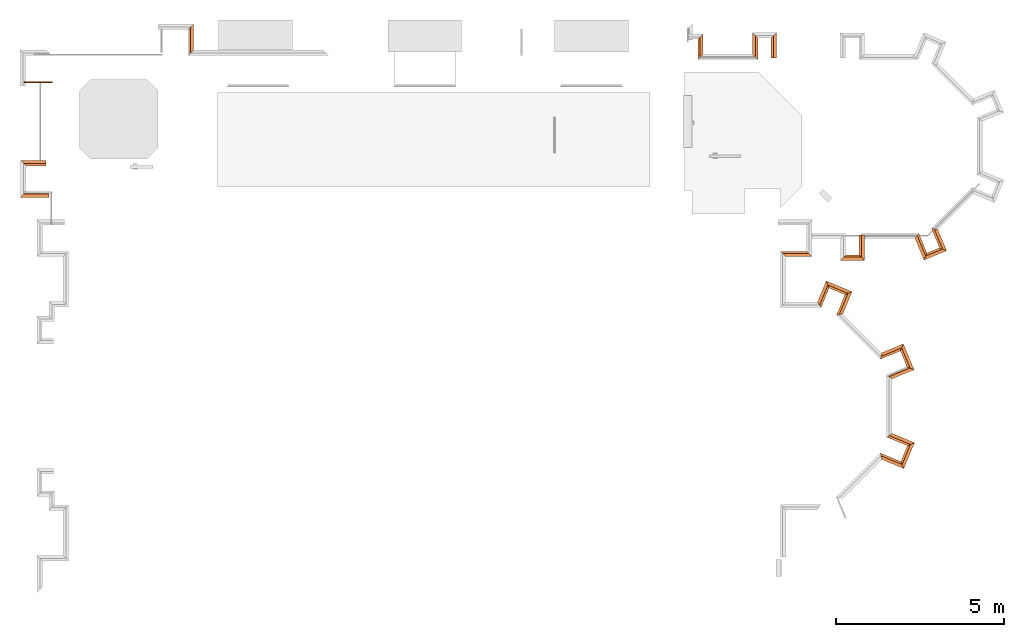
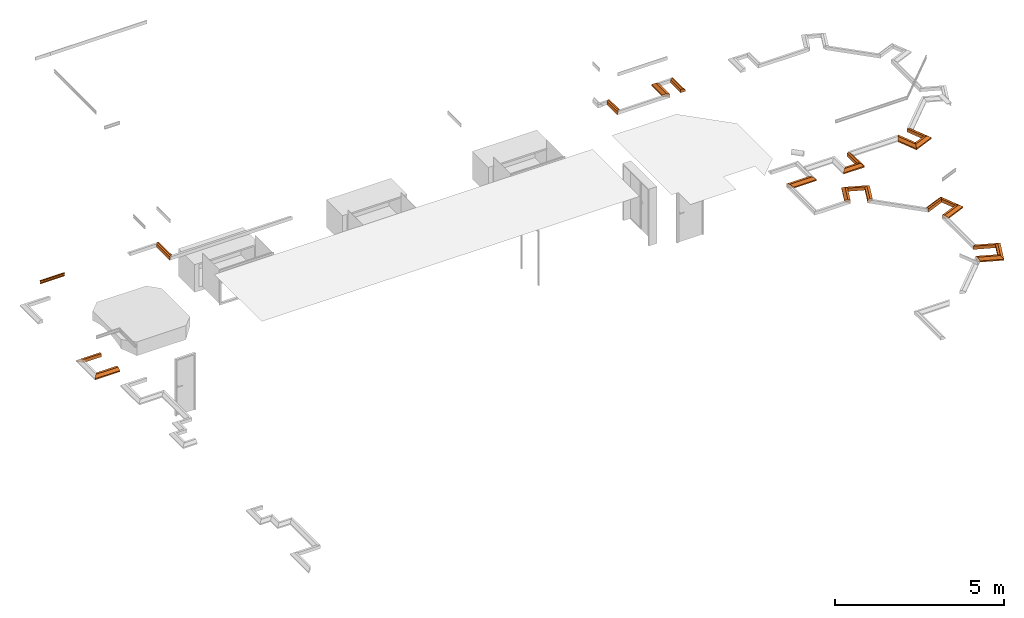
# One storey, part 8 of 9: 22 proxies.
"""IFC2X3 building model written with IfcOpenShell, lengths in metres."""

from ifc_helpers import new_model, entity, si_unit, converted_unit, derived_unit, direction, frame, origin, place, context, subcontext, project, spatial, faceted_brep, type_object, element, save


model = new_model("IFC2X3")

# Units and contexts
model_context = context("Model", 3, precision=1e-05, world=origin(), true_north=direction((6.12303176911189e-17, 1.0)))
plan_context = context("Plan", 3, precision=1e-05, world=origin(), true_north=direction((6.12303176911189e-17, 1.0)))
body_context = subcontext(model_context, "Body", "Model", "MODEL_VIEW")
ifc_project = project(units=[si_unit("LENGTHUNIT", "METRE"), si_unit("AREAUNIT", "SQUARE_METRE"), si_unit("VOLUMEUNIT", "CUBIC_METRE"), converted_unit("PLANEANGLEUNIT", "DEGREE", entity("IfcRatioMeasure", 0.0174532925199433), si_unit("PLANEANGLEUNIT", "RADIAN"), dimensions=[0, 0, 0, 0, 0, 0, 0]), si_unit("MASSUNIT", "GRAM", prefix="KILO"), derived_unit("MASSDENSITYUNIT", [(si_unit("MASSUNIT", "GRAM", prefix="KILO"), 1), (si_unit("LENGTHUNIT", "METRE"), -3)]), derived_unit("MOMENTOFINERTIAUNIT", [(si_unit("LENGTHUNIT", "METRE"), 4)]), si_unit("TIMEUNIT", "SECOND"), si_unit("FREQUENCYUNIT", "HERTZ"), si_unit("THERMODYNAMICTEMPERATUREUNIT", "DEGREE_CELSIUS"), derived_unit("THERMALTRANSMITTANCEUNIT", [(si_unit("MASSUNIT", "GRAM", prefix="KILO"), 1), (si_unit("THERMODYNAMICTEMPERATUREUNIT", "KELVIN"), -1), (si_unit("TIMEUNIT", "SECOND"), -3)]), derived_unit("VOLUMETRICFLOWRATEUNIT", [(si_unit("LENGTHUNIT", "METRE"), 3), (si_unit("TIMEUNIT", "SECOND"), -1)]), derived_unit("MASSFLOWRATEUNIT", [(si_unit("MASSUNIT", "GRAM", prefix="KILO"), 1), (si_unit("TIMEUNIT", "SECOND"), -1)]), derived_unit("ROTATIONALFREQUENCYUNIT", [(si_unit("TIMEUNIT", "SECOND"), -1)]), si_unit("ELECTRICCURRENTUNIT", "AMPERE"), si_unit("ELECTRICVOLTAGEUNIT", "VOLT"), si_unit("POWERUNIT", "WATT"), si_unit("FORCEUNIT", "NEWTON", prefix="KILO"), si_unit("ILLUMINANCEUNIT", "LUX"), si_unit("LUMINOUSFLUXUNIT", "LUMEN"), si_unit("LUMINOUSINTENSITYUNIT", "CANDELA"), derived_unit("USERDEFINED", [(si_unit("MASSUNIT", "GRAM", prefix="KILO"), -1), (si_unit("LENGTHUNIT", "METRE"), -2), (si_unit("TIMEUNIT", "SECOND"), 3), (si_unit("LUMINOUSFLUXUNIT", "LUMEN"), 1)]), derived_unit("SOUNDPOWERUNIT", [(si_unit("MASSUNIT", "GRAM", prefix="KILO"), 1), (si_unit("LENGTHUNIT", "METRE"), 2), (si_unit("TIMEUNIT", "SECOND"), -3)]), derived_unit("SOUNDPRESSUREUNIT", [(si_unit("MASSUNIT", "GRAM", prefix="KILO"), 1), (si_unit("LENGTHUNIT", "METRE"), -1), (si_unit("TIMEUNIT", "SECOND"), -2)]), derived_unit("LINEARVELOCITYUNIT", [(si_unit("LENGTHUNIT", "METRE"), 1), (si_unit("TIMEUNIT", "SECOND"), -1)]), si_unit("PRESSUREUNIT", "PASCAL"), derived_unit("USERDEFINED", [(si_unit("LENGTHUNIT", "METRE"), -2), (si_unit("MASSUNIT", "GRAM", prefix="KILO"), 1), (si_unit("TIMEUNIT", "SECOND"), -2)]), derived_unit("LINEARFORCEUNIT", [(si_unit("MASSUNIT", "GRAM", prefix="KILO"), 1), (si_unit("LENGTHUNIT", "METRE"), 1), (si_unit("TIMEUNIT", "SECOND"), -2), (si_unit("LENGTHUNIT", "METRE"), -1)]), derived_unit("PLANARFORCEUNIT", [(si_unit("MASSUNIT", "GRAM", prefix="KILO"), 1), (si_unit("LENGTHUNIT", "METRE"), 1), (si_unit("TIMEUNIT", "SECOND"), -2), (si_unit("LENGTHUNIT", "METRE"), -2)])], contexts=[model_context, plan_context])

# Site, building, storey
site_placement = place(None, frame((-11.0823275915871, 23.8300534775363, 0.0)))
site = spatial("IfcSite", under=ifc_project, at=site_placement, Name="Default", CompositionType="ELEMENT")
building_placement = place(site_placement, origin())
building = spatial("IfcBuilding", under=site, at=building_placement, Name="Englische Kirche", CompositionType="ELEMENT")
storey_placement = place(building_placement, frame((0.0, 0.0, -3.07499999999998)))
storey = spatial("IfcBuildingStorey", under=building, at=storey_placement, Name="Ebene -1 Basement Phase 6", CompositionType="ELEMENT", Elevation=-3.07499999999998)

# Proxies
building_element_proxy_type_1 = type_object("IfcBuildingElementProxyType", Name="Profilierte Wand:plinth brick header", PredefinedType="NOTDEFINED")
proxy_1_placement = place(storey_placement, frame((23.0870326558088, 9.20240777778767, 2.97999999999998)))
element("IfcBuildingElementProxy", 1, at=proxy_1_placement, inside=storey, type_object=building_element_proxy_type_1, Name="Profilierte Wand:plinth brick header", ObjectType="Profilierte Wand:plinth brick header", context=body_context, shape_type="Brep", body=[
    faceted_brep([(0.0, 0.162669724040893, 0.12), (0.0, 0.162669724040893, 0.0), (0.162669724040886, 0.0, 0.0), (0.16266972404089, 0.0, 0.0450000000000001), (0.0697725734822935, 0.0928971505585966, 0.12), (0.0, 0.750669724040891, 0.12), (0.0697725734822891, 0.750669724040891, 0.12), (0.162669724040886, 0.750669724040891, 0.0450000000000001), (0.162669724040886, 0.750669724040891, 0.0), (0.0, 0.750669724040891, 0.0)], [[[0, 1, 2, 3, 4]], [[5, 6, 7, 8, 9]], [[1, 0, 5, 9]], [[2, 1, 9, 8]], [[3, 2, 8, 7]], [[4, 3, 7, 6]], [[0, 4, 6, 5]]]),
])
building_element_proxy_type_2 = type_object("IfcBuildingElementProxyType", Name="Profilierte Wand:plinth brick header", PredefinedType="NOTDEFINED")
proxy_2_placement = place(storey_placement, frame((25.0225022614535, 9.20987226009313, 2.97999999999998)))
element("IfcBuildingElementProxy", 2, at=proxy_2_placement, inside=storey, type_object=building_element_proxy_type_2, Name="Profilierte Wand:plinth brick header", ObjectType="Profilierte Wand:plinth brick header", context=body_context, shape_type="Brep", body=[
    faceted_brep([(0.0880362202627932, 0.212538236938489, 0.12), (0.0880362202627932, 0.212538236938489, 0.0), (0.0, 0.0, 0.0), (0.0, 0.0, 0.0450000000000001), (0.0502755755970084, 0.121375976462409, 0.12), (0.458511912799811, 0.365994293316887, 0.12), (0.549674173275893, 0.328233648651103, 0.12), (0.671050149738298, 0.277958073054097, 0.0450000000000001), (0.671050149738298, 0.277958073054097, 0.0), (0.458511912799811, 0.365994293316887, 0.0)], [[[0, 1, 2, 3, 4]], [[5, 6, 7, 8, 9]], [[1, 0, 5, 9]], [[2, 1, 9, 8]], [[3, 2, 8, 7]], [[4, 3, 7, 6]], [[0, 4, 6, 5]]]),
])
building_element_proxy_type_3 = type_object("IfcBuildingElementProxyType", Name="Profilierte Wand:plinth brick header", PredefinedType="NOTDEFINED")
proxy_3_placement = place(storey_placement, frame((18.2734573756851, 15.1907189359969, 2.97999999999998)))
element("IfcBuildingElementProxy", 3, at=proxy_3_placement, inside=storey, type_object=building_element_proxy_type_3, Name="Profilierte Wand:plinth brick header", ObjectType="Profilierte Wand:plinth brick header", context=body_context, shape_type="Brep", body=[
    faceted_brep([(0.0, 0.606500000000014, 0.12), (0.0697725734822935, 0.676272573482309, 0.12), (0.16266972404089, 0.769169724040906, 0.0450000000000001), (0.16266972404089, 0.769169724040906, 0.0), (0.0, 0.606500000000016, 0.0), (0.0, 0.0, 0.12), (0.0, 0.0, 0.0), (0.16266972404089, 0.162669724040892, 0.0), (0.16266972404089, 0.162669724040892, 0.0450000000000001), (0.0697725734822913, 0.0697725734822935, 0.12)], [[[0, 1, 2, 3, 4]], [[5, 6, 7, 8, 9]], [[0, 4, 6, 5]], [[4, 3, 7, 6]], [[3, 2, 8, 7]], [[2, 1, 9, 8]], [[1, 0, 5, 9]]]),
])
building_element_proxy_type_4 = type_object("IfcBuildingElementProxyType", Name="Profilierte Wand:plinth", PredefinedType="NOTDEFINED")
proxy_4_placement = place(storey_placement, frame((23.910060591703, 5.67011930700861, 2.97999999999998)))
element("IfcBuildingElementProxy", 4, at=proxy_4_placement, inside=storey, type_object=building_element_proxy_type_4, Name="Profilierte Wand:plinth", ObjectType="Profilierte Wand:plinth", context=body_context, shape_type="Brep", body=[
    faceted_brep([(0.0, 0.108692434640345, 0.12), (0.0, 0.108692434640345, 0.0), (0.16266972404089, 0.0, 0.0), (0.162669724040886, 0.0, 0.0450000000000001), (0.0697725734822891, 0.0620718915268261, 0.12), (0.602804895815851, 0.358382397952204, 0.12), (0.693967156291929, 0.320621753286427, 0.12), (0.815343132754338, 0.270346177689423, 0.0450000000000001), (0.815343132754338, 0.270346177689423, 0.0), (0.602804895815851, 0.358382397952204, 0.0)], [[[0, 1, 2, 3, 4]], [[5, 6, 7, 8, 9]], [[1, 0, 5, 9]], [[2, 1, 9, 8]], [[3, 2, 8, 7]], [[4, 3, 7, 6]], [[0, 4, 6, 5]]]),
])
building_element_proxy_type_5 = type_object("IfcBuildingElementProxyType", Name="Profilierte Wand:plinth", PredefinedType="NOTDEFINED")
proxy_5_placement = place(storey_placement, frame((23.7223483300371, 2.99047393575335, 2.97999999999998)))
element("IfcBuildingElementProxy", 5, at=proxy_5_placement, inside=storey, type_object=building_element_proxy_type_5, Name="Profilierte Wand:plinth", ObjectType="Profilierte Wand:plinth", context=body_context, shape_type="Brep", body=[
    faceted_brep([(0.0, 0.464409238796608, 0.12), (0.0, 0.464409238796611, 0.0), (0.0381677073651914, 0.272527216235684, 0.0), (0.0381677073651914, 0.272527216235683, 0.0450000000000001), (0.016370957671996, 0.382106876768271, 0.12), (0.608070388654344, 0.212538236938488, 0.12), (0.645831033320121, 0.121375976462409, 0.12), (0.696106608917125, 0.0, 0.0450000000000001), (0.696106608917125, 0.0, 0.0), (0.608070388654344, 0.212538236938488, 0.0)], [[[0, 1, 2, 3, 4]], [[5, 6, 7, 8, 9]], [[1, 0, 5, 9]], [[2, 1, 9, 8]], [[3, 2, 8, 7]], [[4, 3, 7, 6]], [[0, 4, 6, 5]]]),
])
building_element_proxy_type_6 = type_object("IfcBuildingElementProxyType", Name="Profilierte Wand:plinth", PredefinedType="NOTDEFINED")
proxy_6_placement = place(storey_placement, frame((24.3304187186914, 2.99047393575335, 2.97999999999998)))
element("IfcBuildingElementProxy", 6, at=proxy_6_placement, inside=storey, type_object=building_element_proxy_type_6, Name="Profilierte Wand:plinth", ObjectType="Profilierte Wand:plinth", context=body_context, shape_type="Brep", body=[
    faceted_brep([(0.0, 0.212538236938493, 0.12), (0.0, 0.212538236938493, 0.0), (0.0880362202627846, 0.0, 0.0), (0.0880362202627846, 0.0, 0.0450000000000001), (0.0377606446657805, 0.121375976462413, 0.12), (0.195168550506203, 0.683716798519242, 0.12), (0.286330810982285, 0.721477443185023, 0.12), (0.407706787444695, 0.771753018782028, 0.0450000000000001), (0.407706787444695, 0.771753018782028, 0.0), (0.195168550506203, 0.683716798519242, 0.0)], [[[0, 1, 2, 3, 4]], [[5, 6, 7, 8, 9]], [[1, 0, 5, 9]], [[2, 1, 9, 8]], [[3, 2, 8, 7]], [[4, 3, 7, 6]], [[0, 4, 6, 5]]]),
])
building_element_proxy_type_7 = type_object("IfcBuildingElementProxyType", Name="Profilierte Wand:plinth", PredefinedType="NOTDEFINED")
proxy_7_placement = place(storey_placement, frame((23.910060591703, 3.67419073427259, 2.97999999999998)))
element("IfcBuildingElementProxy", 7, at=proxy_7_placement, inside=storey, type_object=building_element_proxy_type_7, Name="Profilierte Wand:plinth", ObjectType="Profilierte Wand:plinth", context=body_context, shape_type="Brep", body=[
    faceted_brep([(0.615526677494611, 0.0, 0.12), (0.615526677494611, 0.0, 0.0), (0.828064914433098, 0.088036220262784, 0.0), (0.828064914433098, 0.088036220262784, 0.0450000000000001), (0.706688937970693, 0.0377606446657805, 0.12), (0.0, 0.25495949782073, 0.12), (0.0697725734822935, 0.301580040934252, 0.12), (0.16266972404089, 0.363651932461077, 0.0450000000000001), (0.16266972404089, 0.363651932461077, 0.0), (0.0, 0.25495949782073, 0.0)], [[[0, 1, 2, 3, 4]], [[5, 6, 7, 8, 9]], [[1, 0, 5, 9]], [[2, 1, 9, 8]], [[3, 2, 8, 7]], [[4, 3, 7, 6]], [[0, 4, 6, 5]]]),
])
building_element_proxy_type_8 = type_object("IfcBuildingElementProxyType", Name="Profilierte Wand:plinth", PredefinedType="NOTDEFINED")
proxy_8_placement = place(storey_placement, frame((24.3176969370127, 5.94046548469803, 2.97999999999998)))
element("IfcBuildingElementProxy", 8, at=proxy_8_placement, inside=storey, type_object=building_element_proxy_type_8, Name="Profilierte Wand:plinth", ObjectType="Profilierte Wand:plinth", context=body_context, shape_type="Brep", body=[
    faceted_brep([(0.195168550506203, 0.0880362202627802, 0.12), (0.195168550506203, 0.0880362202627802, 0.0), (0.407706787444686, 0.0, 0.0), (0.407706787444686, 0.0, 0.0450000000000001), (0.286330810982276, 0.0502755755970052, 0.12), (0.0, 0.559214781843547, 0.12), (0.0377606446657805, 0.650377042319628, 0.12), (0.0880362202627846, 0.771753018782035, 0.0450000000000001), (0.0880362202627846, 0.771753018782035, 0.0), (0.0, 0.559214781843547, 0.0)], [[[0, 1, 2, 3, 4]], [[5, 6, 7, 8, 9]], [[1, 0, 5, 9]], [[2, 1, 9, 8]], [[3, 2, 8, 7]], [[4, 3, 7, 6]], [[0, 4, 6, 5]]]),
])
building_element_proxy_type_9 = type_object("IfcBuildingElementProxyType", Name="Profilierte Wand:plinth", PredefinedType="NOTDEFINED")
proxy_9_placement = place(storey_placement, frame((23.7206556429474, 6.25237766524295, 2.97999999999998)))
element("IfcBuildingElementProxy", 9, at=proxy_9_placement, inside=storey, type_object=building_element_proxy_type_9, Name="Profilierte Wand:plinth", ObjectType="Profilierte Wand:plinth", context=body_context, shape_type="Brep", body=[
    faceted_brep([(0.597041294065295, 0.247302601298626, 0.12), (0.597041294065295, 0.247302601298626, 0.0), (0.685077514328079, 0.459840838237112, 0.0), (0.685077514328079, 0.459840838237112, 0.0450000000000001), (0.634801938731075, 0.338464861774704, 0.12), (0.0, 0.0, 0.12), (0.016370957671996, 0.0823023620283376, 0.12), (0.0381677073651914, 0.191882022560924, 0.0450000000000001), (0.0381677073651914, 0.191882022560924, 0.0), (0.0, 0.0, 0.0)], [[[0, 1, 2, 3, 4]], [[5, 6, 7, 8, 9]], [[1, 0, 5, 9]], [[2, 1, 9, 8]], [[3, 2, 8, 7]], [[4, 3, 7, 6]], [[0, 4, 6, 5]]]),
])
building_element_proxy_type_10 = type_object("IfcBuildingElementProxyType", Name="Profilierte Wand:plinth", PredefinedType="NOTDEFINED")
proxy_10_placement = place(storey_placement, frame((22.4093712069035, 7.56366210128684, 2.97999999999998)))
element("IfcBuildingElementProxy", 10, at=proxy_10_placement, inside=storey, type_object=building_element_proxy_type_10, Name="Profilierte Wand:plinth", ObjectType="Profilierte Wand:plinth", context=body_context, shape_type="Brep", body=[
    faceted_brep([(0.0, 0.0, 0.12), (0.0, 0.0, 0.0), (0.191882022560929, 0.0381677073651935, 0.0), (0.191882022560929, 0.0381677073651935, 0.0450000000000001), (0.0823023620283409, 0.016370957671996, 0.12), (0.255213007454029, 0.616138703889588, 0.12), (0.346375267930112, 0.653899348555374, 0.12), (0.467751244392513, 0.704174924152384, 0.0450000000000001), (0.467751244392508, 0.704174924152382, 0.0), (0.255213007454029, 0.616138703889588, 0.0)], [[[0, 1, 2, 3, 4]], [[5, 6, 7, 8, 9]], [[1, 0, 5, 9]], [[2, 1, 9, 8]], [[3, 2, 8, 7]], [[4, 3, 7, 6]], [[0, 4, 6, 5]]]),
])
building_element_proxy_type_11 = type_object("IfcBuildingElementProxyType", Name="Profilierte Wand:plinth", PredefinedType="NOTDEFINED")
proxy_11_placement = place(storey_placement, frame((22.105369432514, 8.17980080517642, 2.97999999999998)))
element("IfcBuildingElementProxy", 11, at=proxy_11_placement, inside=storey, type_object=building_element_proxy_type_11, Name="Profilierte Wand:plinth", ObjectType="Profilierte Wand:plinth", context=body_context, shape_type="Brep", body=[
    faceted_brep([(0.55921478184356, 0.0, 0.12), (0.55921478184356, 0.0, 0.0), (0.771753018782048, 0.0880362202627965, 0.0), (0.771753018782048, 0.0880362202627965, 0.0450000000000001), (0.650377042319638, 0.0377606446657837, 0.12), (0.0880362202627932, 0.195168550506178, 0.12), (0.0502755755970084, 0.286330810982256, 0.12), (0.0, 0.407706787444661, 0.0450000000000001), (0.0, 0.407706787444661, 0.0), (0.0880362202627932, 0.195168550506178, 0.0)], [[[0, 1, 2, 3, 4]], [[5, 6, 7, 8, 9]], [[1, 0, 5, 9]], [[2, 1, 9, 8]], [[3, 2, 8, 7]], [[4, 3, 7, 6]], [[0, 4, 6, 5]]]),
])
building_element_proxy_type_12 = type_object("IfcBuildingElementProxyType", Name="Profilierte Wand:plinth", PredefinedType="NOTDEFINED")
proxy_12_placement = place(storey_placement, frame((21.8440340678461, 7.7939184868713, 2.97999999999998)))
element("IfcBuildingElementProxy", 12, at=proxy_12_placement, inside=storey, type_object=building_element_proxy_type_12, Name="Profilierte Wand:plinth", ObjectType="Profilierte Wand:plinth", context=body_context, shape_type="Brep", body=[
    faceted_brep([(0.34937158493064, 0.581050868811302, 0.12), (0.349371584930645, 0.581050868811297, 0.0), (0.261335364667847, 0.793589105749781, 0.0), (0.261335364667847, 0.793589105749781, 0.0450000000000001), (0.31161094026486, 0.672213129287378, 0.12), (0.108692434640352, 0.0, 0.12), (0.0620718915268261, 0.0697725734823, 0.12), (0.0, 0.162669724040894, 0.0450000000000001), (0.0, 0.162669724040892, 0.0), (0.108692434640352, 0.0, 0.0)], [[[0, 1, 2, 3, 4]], [[5, 6, 7, 8, 9]], [[1, 0, 5, 9]], [[2, 1, 9, 8]], [[3, 2, 8, 7]], [[4, 3, 7, 6]], [[0, 4, 6, 5]]]),
])
building_element_proxy_type_13 = type_object("IfcBuildingElementProxyType", Name="Profilierte Wand:plinth", PredefinedType="NOTDEFINED")
proxy_13_placement = place(storey_placement, frame((20.7349547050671, 9.31104921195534, 2.97999999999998)))
element("IfcBuildingElementProxy", 13, at=proxy_13_placement, inside=storey, type_object=building_element_proxy_type_13, Name="Profilierte Wand:plinth", ObjectType="Profilierte Wand:plinth", context=body_context, shape_type="Brep", body=[
    faceted_brep([(0.0, 0.162669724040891, 0.12), (0.0, 0.162669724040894, 0.0), (0.16266972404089, 0.0, 0.0), (0.16266972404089, 0.0, 0.0450000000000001), (0.0697725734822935, 0.0928971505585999, 0.12), (0.780178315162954, 0.16266972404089, 0.12), (0.849950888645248, 0.0928971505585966, 0.12), (0.942848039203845, 0.0, 0.0450000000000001), (0.942848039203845, 0.0, 0.0), (0.780178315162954, 0.16266972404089, 0.0)], [[[0, 1, 2, 3, 4]], [[5, 6, 7, 8, 9]], [[1, 0, 5, 9]], [[2, 1, 9, 8]], [[3, 2, 8, 7]], [[4, 3, 7, 6]], [[0, 4, 6, 5]]]),
])
building_element_proxy_type_14 = type_object("IfcBuildingElementProxyType", Name="Profilierte Wand:moulding1-Dado", PredefinedType="NOTDEFINED")
proxy_14_placement = place(storey_placement, frame((-1.81607443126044, 14.4971871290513, 4.32499999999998)))
element("IfcBuildingElementProxy", 14, at=proxy_14_placement, inside=storey, type_object=building_element_proxy_type_14, Name="Profilierte Wand:moulding1-Dado", ObjectType="Profilierte Wand:moulding1-Dado", context=body_context, shape_type="Brep", body=[
    faceted_brep([(0.839210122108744, 0.0165318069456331, 0.12), (0.839210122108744, 0.0128721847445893, 0.119546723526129), (0.839210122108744, 0.00943373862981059, 0.11821428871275), (0.839210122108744, 0.00642427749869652, 0.11608322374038), (0.839210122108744, 0.00402568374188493, 0.113282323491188), (0.839210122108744, 0.0023829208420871, 0.109980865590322), (0.839210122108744, 0.00159527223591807, 0.106378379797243), (0.839210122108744, 0.00171034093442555, 0.102692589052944), (0.839210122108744, 0.00272117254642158, 0.0991462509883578), (0.839210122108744, 0.00456667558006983, 0.0959536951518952), (0.839210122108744, 0.00713531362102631, 0.0933078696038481), (0.839210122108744, 0.0102718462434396, 0.0913686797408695), (0.839210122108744, 0.0137867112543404, 0.0902533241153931), (0.839210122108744, 0.0174674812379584, 0.0900292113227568), (0.839210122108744, 0.0215318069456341, 0.0249999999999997), (0.839210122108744, 0.00653180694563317, 0.0249999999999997), (0.839210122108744, 0.00653180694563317, 0.0), (0.839210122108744, 0.0365318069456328, 0.0), (0.839210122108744, 0.0365318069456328, 0.12), (0.0365318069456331, 0.0365318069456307, 0.12), (0.0165318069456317, 0.0365318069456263, 0.120000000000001), (0.0165318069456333, 0.0165318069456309, 0.12), (0.15176493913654, 0.0165318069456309, 0.12), (0.298277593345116, 0.0165318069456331, 0.12), (0.56874385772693, 0.0165318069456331, 0.12), (0.657604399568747, 0.00786327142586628, 0.11724158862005), (0.433313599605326, 0.0135431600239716, 0.119699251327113), (0.428168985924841, 0.0105200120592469, 0.118742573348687), (0.593325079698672, 0.0111118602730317, 0.118986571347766), (0.185264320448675, 0.00511162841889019, 0.114725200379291), (0.411897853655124, 0.00466625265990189, 0.114176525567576), (0.422817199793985, 0.00776561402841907, 0.117171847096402), (0.610657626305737, 0.00576937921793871, 0.0945515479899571), (0.661821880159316, 0.00354544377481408, 0.0974930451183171), (0.42944853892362, 0.00157455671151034, 0.10386833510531), (0.59598503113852, 0.00210636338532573, 0.100888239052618), (0.658292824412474, 0.00153911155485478, 0.104531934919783), (0.661821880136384, 0.00864376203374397, 0.0922415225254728), (0.457728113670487, 0.00864376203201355, 0.0922415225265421), (0.610657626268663, 0.0119948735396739, 0.0907025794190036), (0.00642427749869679, 0.00642427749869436, 0.11608322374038), (0.0040256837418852, 0.00402568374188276, 0.113282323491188), (0.668980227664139, 0.00513858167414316, 0.114756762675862), (0.420796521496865, 0.00187797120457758, 0.108203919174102), (0.420669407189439, 0.00293787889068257, 0.111340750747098), (0.245587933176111, 0.0030854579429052, 0.11164798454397), (0.0137867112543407, 0.0137867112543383, 0.0902533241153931), (0.0174674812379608, 0.0174674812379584, 0.0900292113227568), (0.152701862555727, 0.0174674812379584, 0.0900292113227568), (0.677492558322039, 0.0149341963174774, 0.0900853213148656), (0.595529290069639, 0.00310246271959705, 0.111682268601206), (0.00713531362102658, 0.00713531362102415, 0.0933078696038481), (0.188604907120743, 0.00859768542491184, 0.0922701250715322), (0.247049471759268, 0.00572798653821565, 0.094594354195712), (0.225021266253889, 0.0138779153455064, 0.119763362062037), (0.0128721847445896, 0.0128721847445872, 0.119546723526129), (0.253017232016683, 0.0110374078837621, 0.118957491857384), (0.0045666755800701, 0.00456667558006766, 0.0959536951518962), (0.00159527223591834, 0.00159527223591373, 0.106378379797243), (0.171281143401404, 0.00187523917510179, 0.108191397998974), (0.00238292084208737, 0.00238292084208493, 0.109980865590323), (0.00272117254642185, 0.00272117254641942, 0.0991462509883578), (0.183422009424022, 0.00352951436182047, 0.0975206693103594), (0.421888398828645, 0.00354544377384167, 0.0974930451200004), (0.669022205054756, 0.00187797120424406, 0.108203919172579), (0.00171034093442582, 0.00171034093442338, 0.102692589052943), (0.18220018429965, 0.00153904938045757, 0.104533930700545), (0.225489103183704, 0.0147739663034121, 0.0901033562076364), (0.298280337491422, 0.0174674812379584, 0.0900292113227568), (0.674058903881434, 0.0139190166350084, 0.119770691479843), (0.0102718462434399, 0.0102718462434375, 0.091368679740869), (0.428961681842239, 0.00558689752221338, 0.0947428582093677), (0.177469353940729, 0.00782329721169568, 0.117213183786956), (0.247012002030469, 0.00209986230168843, 0.100911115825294), (0.436316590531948, 0.0142322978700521, 0.0901773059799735), (0.265241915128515, 0.011913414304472, 0.0907286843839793), (0.00943373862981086, 0.00943373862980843, 0.11821428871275), (0.455227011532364, 0.011344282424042, 0.090925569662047), (0.421422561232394, 0.00221637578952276, 0.100520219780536), (0.568743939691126, 0.0174674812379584, 0.0900292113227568), (0.0215318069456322, 0.0215318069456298, 0.0249999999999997), (0.0215318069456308, 0.0365318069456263, 0.0250000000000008), (0.00653180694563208, 0.0365318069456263, 0.0250000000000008), (0.00653180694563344, 0.006531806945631, 0.0249999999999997), (0.00653180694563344, 0.006531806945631, 0.0), (0.00653180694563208, 0.0365318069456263, 0.0), (0.0365318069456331, 0.0365318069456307, 0.0), (0.0174674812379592, 0.0365318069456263, 0.0900292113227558), (0.0137867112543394, 0.0365318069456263, 0.0902533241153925), (0.0102718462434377, 0.0365318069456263, 0.0913686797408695), (0.00713531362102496, 0.0365318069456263, 0.0933078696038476), (0.00456667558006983, 0.0365318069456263, 0.0959536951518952), (0.00272117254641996, 0.0365318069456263, 0.0991462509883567), (0.00171034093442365, 0.0365318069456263, 0.102692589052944), (0.0015952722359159, 0.0365318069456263, 0.106378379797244), (0.0023829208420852, 0.0365318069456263, 0.109980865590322), (0.00402568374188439, 0.0365318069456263, 0.113282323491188), (0.00642427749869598, 0.0365318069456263, 0.116083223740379), (0.00943373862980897, 0.0365318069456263, 0.11821428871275), (0.0128721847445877, 0.0365318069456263, 0.119546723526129)], [[[0, 1, 2, 3, 4, 5, 6, 7, 8, 9, 10, 11, 12, 13, 14, 15, 16, 17, 18]], [[19, 20, 21, 22, 23, 24, 0, 18]], [[3, 2, 25]], [[26, 27, 28]], [[29, 30, 31]], [[9, 32, 10]], [[9, 33, 32]], [[34, 35, 36]], [[37, 38, 39]], [[40, 41, 29]], [[11, 37, 39]], [[42, 3, 25]], [[43, 44, 45]], [[7, 36, 35]], [[35, 8, 7]], [[39, 12, 11]], [[46, 47, 48]], [[49, 13, 12]], [[5, 4, 50]], [[51, 52, 53]], [[54, 55, 56]], [[53, 57, 51]], [[53, 52, 38]], [[58, 59, 60]], [[61, 57, 62]], [[53, 62, 57]], [[33, 63, 32]], [[55, 22, 21]], [[64, 36, 6]], [[65, 66, 58]], [[36, 7, 6]], [[41, 45, 29]], [[67, 48, 68]], [[1, 69, 28]], [[1, 28, 2]], [[51, 70, 52]], [[4, 3, 42]], [[26, 24, 23]], [[71, 38, 32]], [[72, 40, 29]], [[66, 65, 73]], [[59, 58, 66]], [[62, 63, 73]], [[25, 2, 28]], [[0, 24, 69]], [[43, 36, 64]], [[37, 11, 10]], [[45, 41, 60]], [[67, 74, 75]], [[72, 76, 40]], [[56, 55, 76]], [[70, 46, 75]], [[39, 77, 74]], [[73, 65, 61]], [[63, 35, 78]], [[23, 54, 26]], [[9, 8, 33]], [[53, 71, 63]], [[77, 75, 74]], [[49, 12, 39]], [[28, 31, 25]], [[31, 30, 42]], [[63, 62, 53]], [[73, 61, 62]], [[70, 75, 52]], [[38, 52, 75]], [[6, 5, 64]], [[34, 36, 43]], [[45, 59, 43]], [[78, 34, 73]], [[73, 34, 66]], [[43, 66, 34]], [[30, 29, 45]], [[72, 31, 56]], [[44, 30, 45]], [[30, 50, 42]], [[8, 35, 33]], [[63, 33, 35]], [[10, 32, 37]], [[38, 37, 32]], [[42, 25, 31]], [[50, 4, 42]], [[5, 50, 64]], [[43, 64, 50]], [[43, 59, 66]], [[45, 60, 59]], [[31, 72, 29]], [[56, 76, 72]], [[74, 68, 79]], [[48, 67, 46]], [[46, 67, 75]], [[68, 74, 67]], [[49, 74, 79]], [[55, 54, 22]], [[23, 22, 54]], [[31, 27, 56]], [[56, 26, 54]], [[26, 28, 69]], [[56, 27, 26]], [[31, 28, 27]], [[0, 69, 1]], [[26, 69, 24]], [[34, 78, 35]], [[73, 63, 78]], [[43, 50, 44]], [[30, 44, 50]], [[38, 71, 53]], [[32, 63, 71]], [[74, 49, 39]], [[13, 49, 79]], [[39, 38, 77]], [[75, 77, 38]], [[80, 14, 13, 79, 68, 48, 47]], [[80, 81, 82, 83, 15, 14]], [[83, 84, 16, 15]], [[84, 85, 86, 17, 16]], [[86, 85, 82, 81, 87, 88, 89, 90, 91, 92, 93, 94, 95, 96, 97, 98, 99, 20, 19, 18, 17]], [[46, 88, 87, 47]], [[70, 89, 88, 46]], [[57, 61, 92, 91]], [[91, 90, 51, 57]], [[51, 90, 89, 70]], [[65, 93, 92, 61]], [[65, 58, 94, 93]], [[94, 58, 60, 95]], [[41, 96, 95, 60]], [[97, 40, 76, 98]], [[76, 55, 99, 98]], [[40, 97, 96, 41]], [[99, 55, 21, 20]], [[87, 81, 80, 47]], [[82, 85, 84, 83]]]),
])
building_element_proxy_type_15 = type_object("IfcBuildingElementProxyType", Name="Profilierte Wand:plinth brick header", PredefinedType="NOTDEFINED")
proxy_15_placement = place(storey_placement, frame((25.2428748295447, 9.48878704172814, 2.97999999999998)))
element("IfcBuildingElementProxy", 15, at=proxy_15_placement, inside=storey, type_object=building_element_proxy_type_15, Name="Profilierte Wand:plinth brick header", ObjectType="Profilierte Wand:plinth brick header", context=body_context, shape_type="Brep", body=[
    faceted_brep([(0.240449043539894, 0.0880362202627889, 0.12), (0.240449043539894, 0.0880362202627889, 0.0), (0.452987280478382, 0.0, 0.0), (0.452987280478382, 0.0, 0.0450000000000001), (0.331611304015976, 0.0502755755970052, 0.12), (0.0, 0.668531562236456, 0.12), (0.0823023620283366, 0.652160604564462, 0.12), (0.191882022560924, 0.630363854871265, 0.0450000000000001), (0.191882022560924, 0.630363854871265, 0.0), (0.0, 0.668531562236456, 0.0)], [[[0, 1, 2, 3, 4]], [[5, 6, 7, 8, 9]], [[1, 0, 5, 9]], [[2, 1, 9, 8]], [[3, 2, 8, 7]], [[4, 3, 7, 6]], [[0, 4, 6, 5]]]),
])
building_element_proxy_type_16 = type_object("IfcBuildingElementProxyType", Name="Profilierte Wand:plinth", PredefinedType="NOTDEFINED")
proxy_16_placement = place(storey_placement, frame((3.07545737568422, 15.313718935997, 2.97999999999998)))
element("IfcBuildingElementProxy", 16, at=proxy_16_placement, inside=storey, type_object=building_element_proxy_type_16, Name="Profilierte Wand:plinth", ObjectType="Profilierte Wand:plinth", context=body_context, shape_type="Brep", body=[
    faceted_brep([(0.0, 0.78, 0.12), (0.0697725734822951, 0.849772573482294, 0.12), (0.162669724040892, 0.94266972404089, 0.0450000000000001), (0.162669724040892, 0.94266972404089, 0.0), (0.0, 0.78, 0.0), (0.0, 0.0, 0.12), (0.0, 0.0, 0.0), (0.162669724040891, 0.16266972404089, 0.0), (0.162669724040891, 0.16266972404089, 0.0450000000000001), (0.0697725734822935, 0.0697725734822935, 0.12)], [[[0, 1, 2, 3, 4]], [[5, 6, 7, 8, 9]], [[1, 0, 5, 9]], [[2, 1, 9, 8]], [[3, 2, 8, 7]], [[4, 3, 7, 6]], [[0, 4, 6, 5]]]),
])
building_element_proxy_type_17 = type_object("IfcBuildingElementProxyType", Name="Profilierte Wand:plinth brick header", PredefinedType="NOTDEFINED")
proxy_17_placement = place(storey_placement, frame((24.75572926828, 9.20891867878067, 2.97999999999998)))
element("IfcBuildingElementProxy", 17, at=proxy_17_placement, inside=storey, type_object=building_element_proxy_type_17, Name="Profilierte Wand:plinth brick header", ObjectType="Profilierte Wand:plinth brick header", context=body_context, shape_type="Brep", body=[
    faceted_brep([(0.108692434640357, 0.801158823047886, 0.12), (0.108692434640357, 0.801158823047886, 0.0), (0.0, 0.638489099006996, 0.0), (0.0, 0.638489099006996, 0.0450000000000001), (0.0620718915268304, 0.731386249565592, 0.12), (0.352507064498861, 0.212538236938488, 0.12), (0.314746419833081, 0.121375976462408, 0.12), (0.264470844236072, 0.0, 0.0450000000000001), (0.264470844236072, 0.0, 0.0), (0.352507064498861, 0.212538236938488, 0.0)], [[[0, 1, 2, 3, 4]], [[5, 6, 7, 8, 9]], [[1, 0, 5, 9]], [[2, 1, 9, 8]], [[3, 2, 8, 7]], [[4, 3, 7, 6]], [[0, 4, 6, 5]]]),
])
building_element_proxy_type_18 = type_object("IfcBuildingElementProxyType", Name="Profilierte Wand:plinth", PredefinedType="NOTDEFINED")
proxy_18_placement = place(storey_placement, frame((-1.92770053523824, 11.081239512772, 2.97999999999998)))
element("IfcBuildingElementProxy", 18, at=proxy_18_placement, inside=storey, type_object=building_element_proxy_type_18, Name="Profilierte Wand:plinth", ObjectType="Profilierte Wand:plinth", context=body_context, shape_type="Brep", body=[
    faceted_brep([(0.16266972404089, 0.162669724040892, 0.12), (0.16266972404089, 0.162669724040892, 0.0), (0.0, 0.0, 0.0), (0.0, 0.0, 0.0450000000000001), (0.0928971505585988, 0.092897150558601, 0.12), (0.855657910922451, 0.162669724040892, 0.12), (0.855657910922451, 0.0928971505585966, 0.12), (0.855657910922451, 0.0, 0.0450000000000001), (0.855657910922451, 0.0, 0.0), (0.855657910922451, 0.16266972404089, 0.0)], [[[0, 1, 2, 3, 4]], [[5, 6, 7, 8, 9]], [[1, 0, 5, 9]], [[2, 1, 9, 8]], [[3, 2, 8, 7]], [[4, 3, 7, 6]], [[0, 4, 6, 5]]]),
])
building_element_proxy_type_19 = type_object("IfcBuildingElementProxyType", Name="Profilierte Wand:plinth", PredefinedType="NOTDEFINED")
proxy_19_placement = place(storey_placement, frame((-1.92770053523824, 12.0212189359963, 2.97999999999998)))
element("IfcBuildingElementProxy", 19, at=proxy_19_placement, inside=storey, type_object=building_element_proxy_type_19, Name="Profilierte Wand:plinth", ObjectType="Profilierte Wand:plinth", context=body_context, shape_type="Brep", body=[
    faceted_brep([(0.16266972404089, 0.0, 0.12), (0.0928971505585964, 0.0697725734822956, 0.12), (0.0, 0.162669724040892, 0.0450000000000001), (0.0, 0.162669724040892, 0.0), (0.16266972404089, 0.0, 0.0), (0.763681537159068, 0.0, 0.12), (0.763681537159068, 0.0, 0.0), (0.763681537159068, 0.16266972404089, 0.0), (0.763681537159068, 0.16266972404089, 0.0450000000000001), (0.763681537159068, 0.0697725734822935, 0.12)], [[[0, 1, 2, 3, 4]], [[5, 6, 7, 8, 9]], [[1, 0, 5, 9]], [[2, 1, 9, 8]], [[3, 2, 8, 7]], [[4, 3, 7, 6]], [[0, 4, 6, 5]]]),
])
building_element_proxy_type_20 = type_object("IfcBuildingElementProxyType", Name="Profilierte Wand:plinth brick header", PredefinedType="NOTDEFINED")
proxy_20_placement = place(storey_placement, frame((19.9000376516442, 15.1907189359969, 2.97999999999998)))
element("IfcBuildingElementProxy", 20, at=proxy_20_placement, inside=storey, type_object=building_element_proxy_type_20, Name="Profilierte Wand:plinth brick header", ObjectType="Profilierte Wand:plinth brick header", context=body_context, shape_type="Brep", body=[
    faceted_brep([(0.16266972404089, 0.0, 0.12), (0.092897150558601, 0.0697725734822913, 0.12), (0.0, 0.162669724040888, 0.0450000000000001), (0.0, 0.162669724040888, 0.0), (0.162669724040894, 0.0, 0.0), (0.162669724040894, 0.641999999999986, 0.12), (0.162669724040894, 0.641999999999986, 0.0), (0.0, 0.804669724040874, 0.0), (0.0, 0.804669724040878, 0.0450000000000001), (0.0928971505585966, 0.711772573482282, 0.12)], [[[0, 1, 2, 3, 4]], [[5, 6, 7, 8, 9]], [[1, 0, 5, 9]], [[2, 1, 9, 8]], [[3, 2, 8, 7]], [[4, 3, 7, 6]], [[0, 4, 6, 5]]]),
])
building_element_proxy_type_21 = type_object("IfcBuildingElementProxyType", Name="Profilierte Wand:plinth brick header", PredefinedType="NOTDEFINED")
proxy_21_placement = place(storey_placement, frame((20.4637073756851, 15.2432307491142, 2.97999999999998)))
element("IfcBuildingElementProxy", 21, at=proxy_21_placement, inside=storey, type_object=building_element_proxy_type_21, Name="Profilierte Wand:plinth brick header", ObjectType="Profilierte Wand:plinth brick header", context=body_context, shape_type="Brep", body=[
    faceted_brep([(0.0, 0.589488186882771, 0.12), (0.0697725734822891, 0.659260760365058, 0.12), (0.162669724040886, 0.752157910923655, 0.0450000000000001), (0.162669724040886, 0.752157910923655, 0.0), (0.0, 0.589488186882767, 0.0), (0.0, 0.0, 0.12), (0.0, 0.0, 0.0), (0.162669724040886, 0.0, 0.0), (0.16266972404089, 0.0, 0.0450000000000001), (0.0697725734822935, 0.0, 0.12)], [[[0, 1, 2, 3, 4]], [[5, 6, 7, 8, 9]], [[1, 0, 5, 9]], [[2, 1, 9, 8]], [[3, 2, 8, 7]], [[4, 3, 7, 6]], [[0, 4, 6, 5]]]),
])
building_element_proxy_type_22 = type_object("IfcBuildingElementProxyType", Name="Profilierte Wand:plinth brick header", PredefinedType="NOTDEFINED")
proxy_22_placement = place(storey_placement, frame((22.5233629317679, 9.20240777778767, 2.97999999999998)))
element("IfcBuildingElementProxy", 22, at=proxy_22_placement, inside=storey, type_object=building_element_proxy_type_22, Name="Profilierte Wand:plinth brick header", ObjectType="Profilierte Wand:plinth brick header", context=body_context, shape_type="Brep", body=[
    faceted_brep([(0.162669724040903, 0.162669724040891, 0.12), (0.162669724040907, 0.162669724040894, 0.0), (0.0, 0.0, 0.0), (0.0, 0.0, 0.0450000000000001), (0.0928971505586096, 0.092897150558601, 0.12), (0.563669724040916, 0.162669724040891, 0.12), (0.633442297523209, 0.0928971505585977, 0.12), (0.72633944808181, 0.0, 0.0450000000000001), (0.726339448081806, 0.0, 0.0), (0.563669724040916, 0.162669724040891, 0.0)], [[[0, 1, 2, 3, 4]], [[5, 6, 7, 8, 9]], [[1, 0, 5, 9]], [[2, 1, 9, 8]], [[3, 2, 8, 7]], [[4, 3, 7, 6]], [[0, 4, 6, 5]]]),
])

save(model, "model.ifc")
